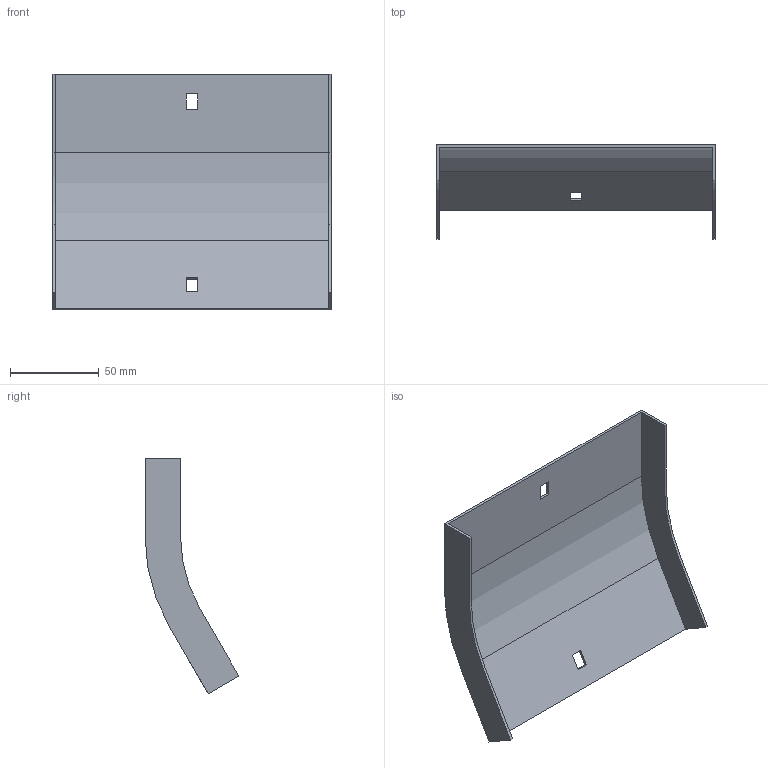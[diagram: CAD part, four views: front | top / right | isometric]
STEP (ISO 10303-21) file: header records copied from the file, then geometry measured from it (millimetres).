
FILE_DESCRIPTION (( 'STEP AP214' ), '1' );
FILE_NAME ('35G1B150.step', '2025-02-21T12:41:21', ( '' ), ( '' ), 'SwSTEP 2.0', 'SolidWorks 2023', '' );
FILE_SCHEMA (( 'AUTOMOTIVE_DESIGN' ));
Length unit declared in the file: millimetre
Products named in the file (1): 35G1B150
Bounding box: 157 x 52.92 x 132.86 mm (x, y, z)
Volume: 40492.9 mm3; surface area: 55058.7 mm2
Topology: 1 solids, 1 shells, 26 faces, 72 edges, 48 vertices
Faces by surface type: plane 22, cylinder 4
Entity records: 855 total; most frequent: CARTESIAN_POINT 147, ORIENTED_EDGE 144, DIRECTION 134, EDGE_CURVE 72, VECTOR 64, LINE 64, VERTEX_POINT 48, AXIS2_PLACEMENT_3D 35
